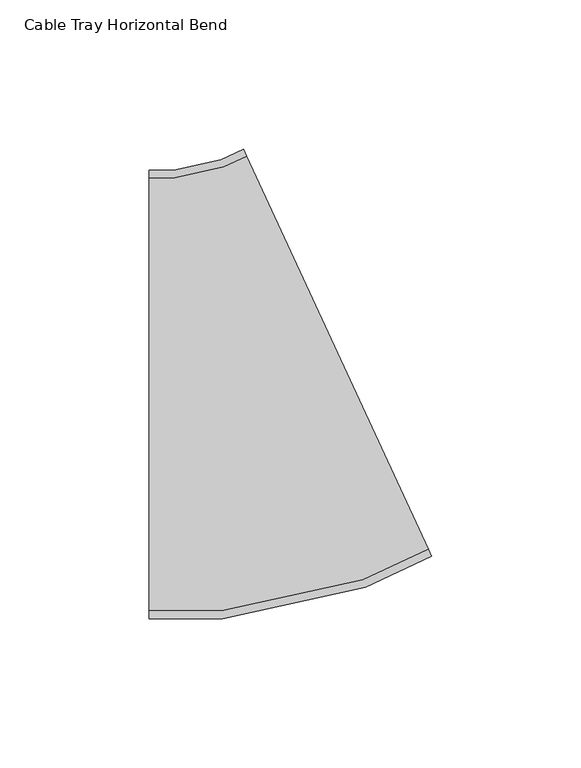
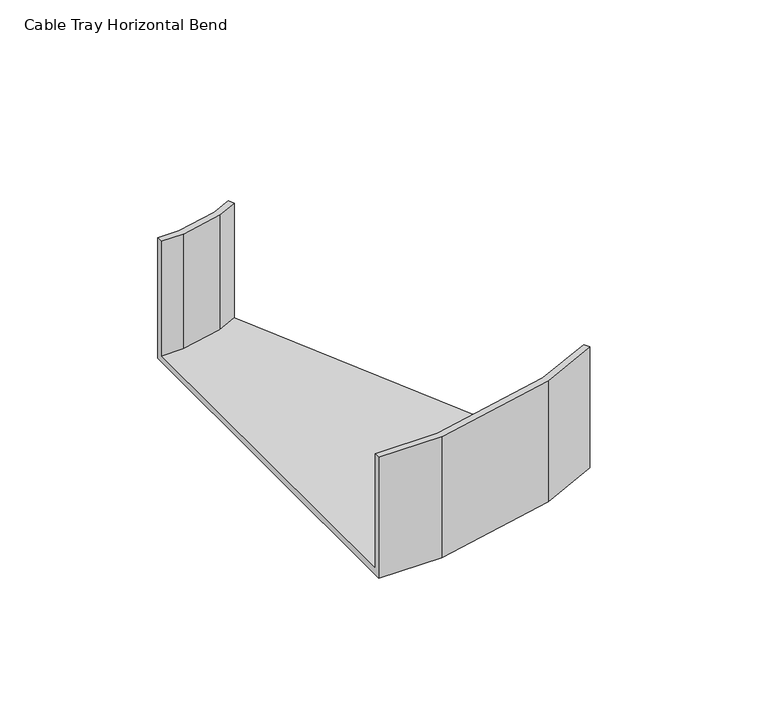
"""IFC4 building model written with IfcOpenShell, lengths in millimetres: cable carrier fitting geometry, Cable Tray Horizontal Bend : ELEC_ELV_CT_N2402."""

from ifc_helpers import new_model, si_unit, origin, place, context, project, spatial, faceted_brep, source, transform, mapped, element, save


def cable_tray_horizontal_bend_ba0b7d37(model_context):
    return source(origin(), model_context, "Body", "Brep", [
        faceted_brep([(-33.036782, -75.0, -25.0), (-33.036782, -75.0, 25.0), (-33.036782, -72.46, 25.0), (-33.036782, -72.46, -22.46), (-33.036782, 72.46, -22.46), (-33.036782, 72.46, 25.0), (-33.036782, 75.0, 25.0), (-33.036782, 75.0, -25.0), (61.4883436, -54.1812936, -25.0), (-1.5284068, 81.9395688, -25.0), (-1.5284068, 81.9395688, 25.0), (-0.4613232, 79.6345889, 25.0), (-0.4613232, 79.6345889, -22.46), (60.4212599, -51.8763136, -22.46), (60.4212599, -51.8763136, 25.0), (61.4883436, -54.1812936, 25.0), (-8.5525989, -75.0, -25.0), (-8.5525989, -75.0, 25.0), (39.2696228, -64.4673846, 25.0), (38.4533638, -62.0462861, 25.0), (-8.8289982, -72.46, 25.0), (-8.8289982, -72.46, -22.46), (38.4533638, -62.0462861, -22.46), (-8.1183881, 76.0897733, -22.46), (-24.5989884, 72.46, -22.46), (-24.5989884, 72.46, 25.0), (-8.1183881, 76.0897733, 25.0), (-8.9346471, 78.5108718, 25.0), (-24.8753876, 75.0, 25.0), (-24.8753876, 75.0, -25.0), (-8.9346471, 78.5108718, -25.0), (39.2696228, -64.4673846, -25.0)], [[[0, 1, 2, 3, 4, 5, 6, 7]], [[8, 9, 10, 11, 12, 13, 14, 15]], [[1, 0, 16, 17]], [[2, 1, 17, 18, 15, 14, 19, 20]], [[3, 2, 20, 21]], [[4, 3, 21, 22, 13, 12, 23, 24]], [[5, 4, 24, 25]], [[6, 5, 25, 26, 11, 10, 27, 28]], [[7, 6, 28, 29]], [[0, 7, 29, 30, 9, 8, 31, 16]], [[17, 16, 31, 18]], [[21, 20, 19, 22]], [[25, 24, 23, 26]], [[29, 28, 27, 30]], [[18, 31, 8, 15]], [[22, 19, 14, 13]], [[26, 23, 12, 11]], [[30, 27, 10, 9]]]),
    ])


if __name__ == "__main__":
    model = new_model("IFC4")
    model_context = context("Model", 3, world=origin())
    ifc_project = project(units=[si_unit("LENGTHUNIT", "METRE", prefix="MILLI")], contexts=[model_context])
    site = spatial("IfcSite", under=ifc_project)
    building = spatial("IfcBuilding", under=site)
    placement = place(None, origin())
    cable_tray_horizontal_bend_shape = cable_tray_horizontal_bend_ba0b7d37(model_context)
    element("IfcCableCarrierFitting", 1, ObjectType="Cable Tray Horizontal Bend : ELEC_ELV_CT_N2402", at=placement, inside=building, context=model_context, shape_type="MappedRepresentation", body=[
        mapped(cable_tray_horizontal_bend_shape, transform((0.0, 0.0, 0.0), x_axis=(1.0, 0.0, 0.0), y_axis=(0.0, 1.0, 0.0), z_axis=(0.0, 0.0, 1.0))),
    ])
    save(model, "model.ifc")
